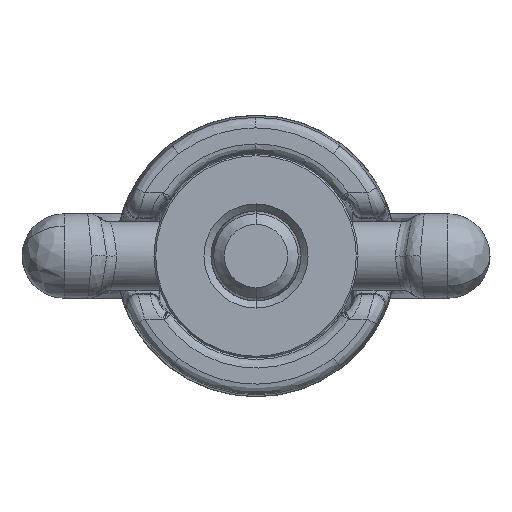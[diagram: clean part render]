
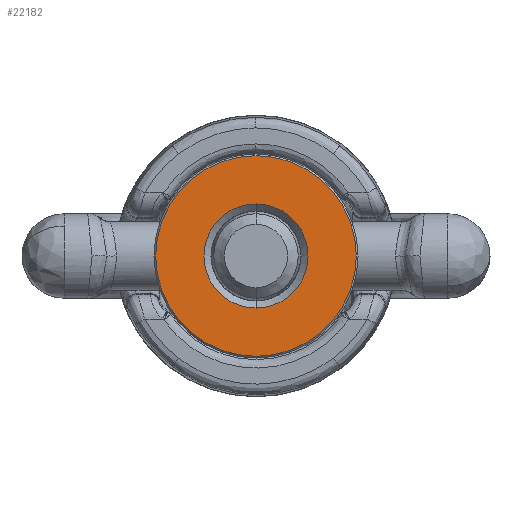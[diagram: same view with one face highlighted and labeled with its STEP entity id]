
A CAD part, front view. The second image highlights one B-rep face of the part: STEP entity #22182.
In plain terms, the highlighted planar face has unit normal (0, -1, 0).
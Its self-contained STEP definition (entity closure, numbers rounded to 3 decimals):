
#3481 = DIRECTION ( 'NONE',  ( 0., 0., 1. ) ) ;
#3499 = DIRECTION ( 'NONE',  ( 0., 1., 0. ) ) ;
#3500 = CARTESIAN_POINT ( 'NONE',  ( 0., 0., 0. ) ) ;
#3501 = AXIS2_PLACEMENT_3D ( 'NONE', #3500, #3499, #3481 ) ;
#3502 = CIRCLE ( 'NONE', #3501, 28.5 ) ;
#3519 = CARTESIAN_POINT ( 'NONE',  ( 0., 0., -28.5 ) ) ;
#3674 = DIRECTION ( 'NONE',  ( 0., 0., -1. ) ) ;
#3683 = CARTESIAN_POINT ( 'NONE',  ( 0., 0., 28.5 ) ) ;
#3684 = CIRCLE ( 'NONE', #3713, 14.8 ) ;
#3711 = DIRECTION ( 'NONE',  ( 0., -1., 0. ) ) ;
#3712 = CARTESIAN_POINT ( 'NONE',  ( 0., 0., 0. ) ) ;
#3713 = AXIS2_PLACEMENT_3D ( 'NONE', #3712, #3711, #3674 ) ;
#3727 = CARTESIAN_POINT ( 'NONE',  ( 0., 0., -14.8 ) ) ;
#3728 = CARTESIAN_POINT ( 'NONE',  ( 0., 0., 14.8 ) ) ;
#22010 = EDGE_CURVE ( 'NONE', #22052, #22011, #3502, .T. ) ;
#22011 = VERTEX_POINT ( 'NONE', #3519 ) ;
#22052 = VERTEX_POINT ( 'NONE', #3683 ) ;
#22055 = VERTEX_POINT ( 'NONE', #3728 ) ;
#22056 = VERTEX_POINT ( 'NONE', #3727 ) ;
#22058 = EDGE_CURVE ( 'NONE', #22055, #22056, #3684, .T. ) ;
#22181 = EDGE_CURVE ( 'NONE', #22056, #22055, #31112, .T. ) ;
#22182 = ADVANCED_FACE ( 'NONE', ( #31113, #31107 ), #31141, .F. ) ;
#22247 = EDGE_LOOP ( 'NONE', ( #22248, #22249 ) ) ;
#22248 = ORIENTED_EDGE ( 'NONE', *, *, #22181, .F. ) ;
#22249 = ORIENTED_EDGE ( 'NONE', *, *, #22058, .F. ) ;
#22250 = EDGE_LOOP ( 'NONE', ( #22251, #22252 ) ) ;
#22251 = ORIENTED_EDGE ( 'NONE', *, *, #22010, .F. ) ;
#22252 = ORIENTED_EDGE ( 'NONE', *, *, #22270, .F. ) ;
#22270 = EDGE_CURVE ( 'NONE', #22011, #22052, #31214, .T. ) ;
#31107 = FACE_OUTER_BOUND ( 'NONE', #22250, .T. ) ;
#31108 = DIRECTION ( 'NONE',  ( 0., 0., -1. ) ) ;
#31109 = DIRECTION ( 'NONE',  ( 0., -1., 0. ) ) ;
#31110 = CARTESIAN_POINT ( 'NONE',  ( 0., 0., 0. ) ) ;
#31111 = AXIS2_PLACEMENT_3D ( 'NONE', #31110, #31109, #31108 ) ;
#31112 = CIRCLE ( 'NONE', #31111, 14.8 ) ;
#31113 = FACE_BOUND ( 'NONE', #22247, .T. ) ;
#31136 = DIRECTION ( 'NONE',  ( 0., 0., 1. ) ) ;
#31137 = DIRECTION ( 'NONE',  ( 0., 1., 0. ) ) ;
#31138 = AXIS2_PLACEMENT_3D ( 'NONE', #31140, #31137, #31136 ) ;
#31140 = CARTESIAN_POINT ( 'NONE',  ( 0., 0., 0. ) ) ;
#31141 = PLANE ( 'NONE',  #31138 ) ;
#31191 = DIRECTION ( 'NONE',  ( 0., 1., 0. ) ) ;
#31192 = CARTESIAN_POINT ( 'NONE',  ( 0., 0., 0. ) ) ;
#31193 = AXIS2_PLACEMENT_3D ( 'NONE', #31192, #31191, #31204 ) ;
#31204 = DIRECTION ( 'NONE',  ( 0., 0., 1. ) ) ;
#31214 = CIRCLE ( 'NONE', #31193, 28.5 ) ;
